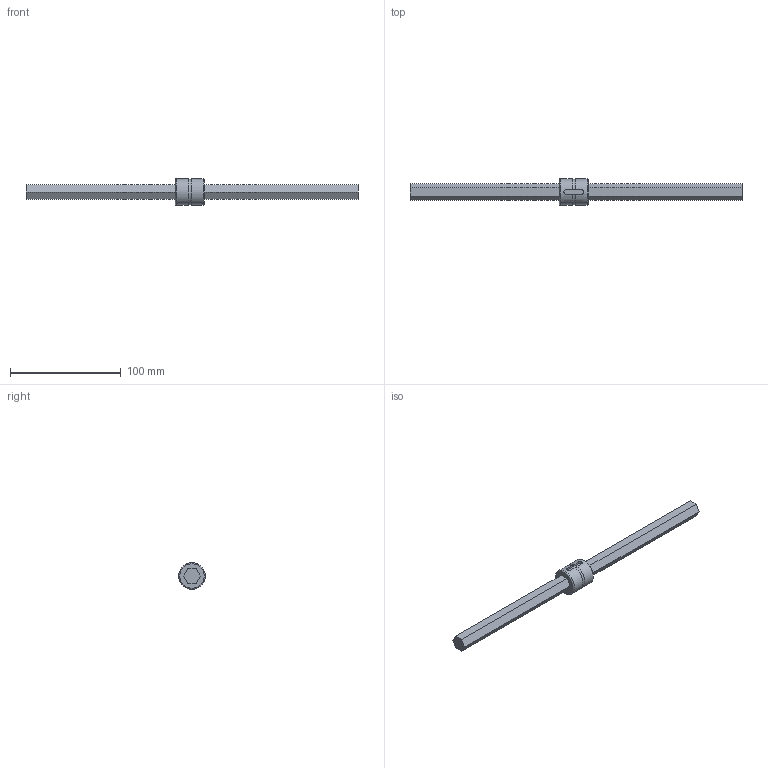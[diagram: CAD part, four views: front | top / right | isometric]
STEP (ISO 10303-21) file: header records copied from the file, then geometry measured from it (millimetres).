
FILE_DESCRIPTION((''),'2;1');
FILE_NAME('D:\製品 (図面)\カタログ用3D\ネジ関連\STEP形式\HTS\HTS13.stp','2010-06-01T16:50:03',('Tsuchiya'),(''),'Autodesk Inventor 10','Autodesk Inventor 10','');
FILE_SCHEMA(('AUTOMOTIVE_DESIGN { 1 0 10303 214 1 1 1 1 }'));
Length unit declared in the file: millimetre
Products named in the file (3): HTS13; HTS131; HTS132
Assembly tree (2 placements, depth 2):
  HTS13
    HTS131
    HTS132
Bounding box: 300 x 24 x 24 mm (x, y, z)
Volume: 51495.5 mm3; surface area: 17702.2 mm2
Topology: 2 solids, 2 shells, 36 faces, 89 edges, 59 vertices
Faces by surface type: plane 27, cylinder 6, torus 2, bspline 1
Full cylindrical faces by diameter (mm): 1.5 x1, 16 x1, 24 x2
Entity records: 1362 total; most frequent: CARTESIAN_POINT 463, DIRECTION 164, ORIENTED_EDGE 164, EDGE_CURVE 82, VECTOR 64, LINE 64, VERTEX_POINT 58, AXIS2_PLACEMENT_3D 50
